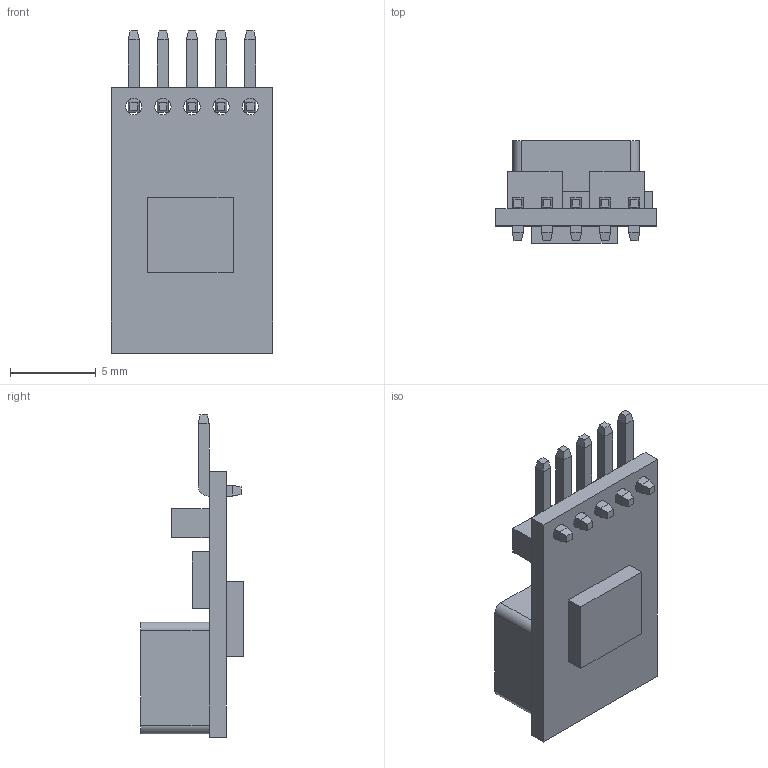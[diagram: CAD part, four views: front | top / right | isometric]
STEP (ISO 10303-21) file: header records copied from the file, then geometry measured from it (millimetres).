
FILE_DESCRIPTION (( 'STEP AP214' ), '1' );
FILE_NAME ('TSR03-12S3P3.STEP', '2018-10-16T10:06:54', ( 'user' ), ( '' ), 'SwSTEP 2.0', 'SolidWorks 2016', '' );
FILE_SCHEMA (( 'AUTOMOTIVE_DESIGN' ));
Length unit declared in the file: millimetre
Products named in the file (1): TSR03-12S3P3
Bounding box: 9.4 x 6 x 18.8 mm (x, y, z)
Volume: 414 mm3; surface area: 623.8 mm2
Topology: 1 solids, 1 shells, 140 faces, 351 edges, 214 vertices
Faces by surface type: plane 121, cylinder 19
Entity records: 5338 total; most frequent: CARTESIAN_POINT 706, ORIENTED_EDGE 702, DIRECTION 681, EDGE_CURVE 351, LINE 303, VECTOR 303, VERTEX_POINT 214, AXIS2_PLACEMENT_3D 189
